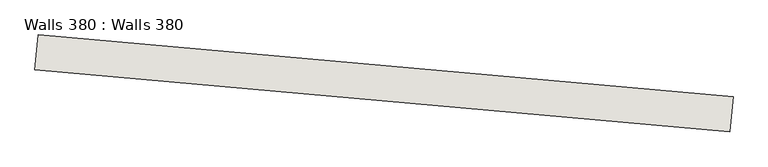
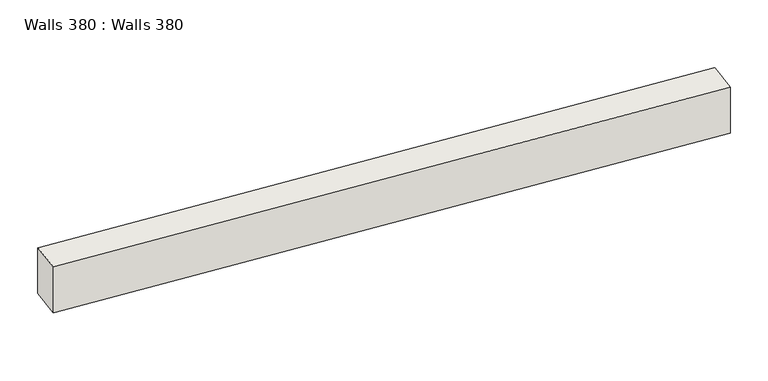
"""IFC4 building model written with IfcOpenShell, lengths in millimetres: wall geometry, Walls 380 : Walls 380."""

from ifc_helpers import new_model, si_unit, frame, origin, place, context, project, spatial, polyline, outline, extrude, source, transform, mapped, element, save


def walls_380_walls_380_f5741781(model_context):
    return source(origin(), model_context, "Body", "SweptSolid", [
        extrude(outline(polyline([(-630807.211872, -422481.078307), (-630842.706802, -422879.5003319), (-638811.1473005, -422169.6017306), (-638775.6523704, -421771.1797057), (-630807.211872, -422481.078307)])), frame((0.0, 0.0, 636360.0), z_axis=(0.0, 0.0, 1.0), x_axis=(1.0, 0.0, 0.0)), (0.0, 0.0, 1.0), 600.0),
    ])


if __name__ == "__main__":
    model = new_model("IFC4")
    model_context = context("Model", 3, world=origin())
    ifc_project = project(units=[si_unit("LENGTHUNIT", "METRE", prefix="MILLI")], contexts=[model_context])
    site = spatial("IfcSite", under=ifc_project)
    building = spatial("IfcBuilding", under=site)
    placement = place(None, origin())
    walls_380_walls_380_shape = walls_380_walls_380_f5741781(model_context)
    element("IfcWall", 1, ObjectType="Walls 380 : Walls 380", at=placement, inside=building, context=model_context, shape_type="MappedRepresentation", body=[
        mapped(walls_380_walls_380_shape, transform((0.0, 0.0, 0.0), x_axis=(1.0, 0.0, 0.0), y_axis=(0.0, 1.0, 0.0), z_axis=(0.0, 0.0, 1.0))),
    ])
    save(model, "model.ifc")
